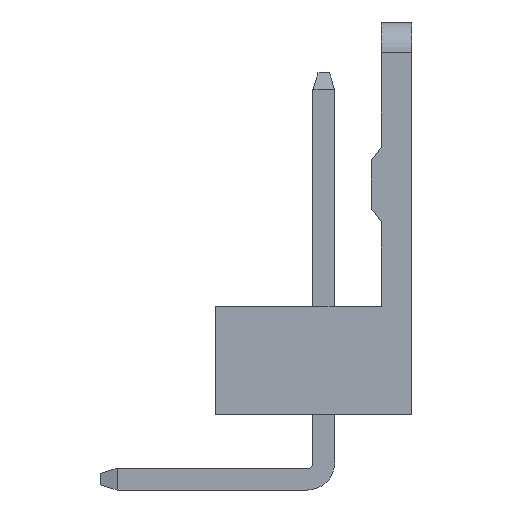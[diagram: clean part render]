
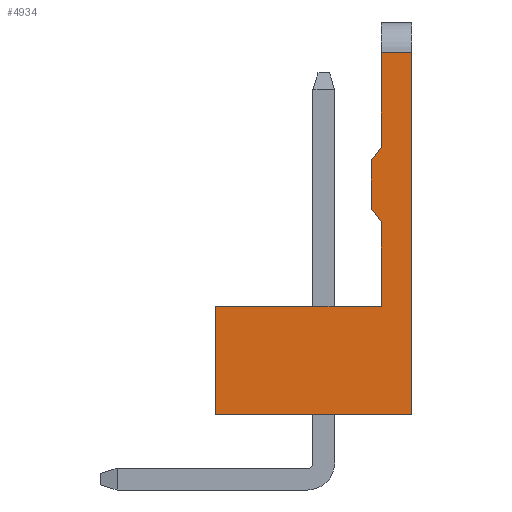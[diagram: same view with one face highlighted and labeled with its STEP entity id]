
A CAD part, left-side view. The second image highlights one B-rep face of the part: STEP entity #4934.
In plain terms, the highlighted planar face has unit normal (-1, 0, 0).
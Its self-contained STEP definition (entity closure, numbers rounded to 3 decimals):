
#61=CARTESIAN_POINT('Vertex',(-22.86,0.9,3.2)) ;
#66=CARTESIAN_POINT('Line Origine',(-22.86,0.9,4.45)) ;
#70=CARTESIAN_POINT('Vertex',(-22.86,0.9,5.7)) ;
#97=CARTESIAN_POINT('Line Origine',(-22.86,1.05,5.9)) ;
#101=CARTESIAN_POINT('Vertex',(-22.86,1.2,6.1)) ;
#128=CARTESIAN_POINT('Line Origine',(-22.86,1.2,6.8)) ;
#132=CARTESIAN_POINT('Vertex',(-22.86,1.2,7.5)) ;
#159=CARTESIAN_POINT('Line Origine',(-22.86,1.05,7.7)) ;
#163=CARTESIAN_POINT('Vertex',(-22.86,0.9,7.9)) ;
#4041=CARTESIAN_POINT('Vertex',(-22.86,0.,0.)) ;
#4046=CARTESIAN_POINT('Line Origine',(-22.86,2.9,0.)) ;
#4050=CARTESIAN_POINT('Vertex',(-22.86,5.8,0.)) ;
#4353=CARTESIAN_POINT('Vertex',(-22.86,5.8,3.2)) ;
#4356=CARTESIAN_POINT('Line Origine',(-22.86,3.35,3.2)) ;
#4595=CARTESIAN_POINT('Line Origine',(-22.86,5.8,1.6)) ;
#4898=CARTESIAN_POINT('Axis2P3D Location',(-22.86,0.,0.)) ;
#4903=CARTESIAN_POINT('Line Origine',(-22.86,0.45,10.7)) ;
#4907=CARTESIAN_POINT('Vertex',(-22.86,0.9,10.7)) ;
#4909=CARTESIAN_POINT('Vertex',(-22.86,0.,10.7)) ;
#4912=CARTESIAN_POINT('Line Origine',(-22.86,0.9,9.3)) ;
#4917=CARTESIAN_POINT('Line Origine',(-22.86,0.,5.35)) ;
#67=DIRECTION('Vector Direction',(0.,0.,1.)) ;
#98=DIRECTION('Vector Direction',(0.,0.6,0.8)) ;
#129=DIRECTION('Vector Direction',(0.,0.,1.)) ;
#160=DIRECTION('Vector Direction',(0.,-0.6,0.8)) ;
#4047=DIRECTION('Vector Direction',(0.,1.,0.)) ;
#4357=DIRECTION('Vector Direction',(0.,-1.,0.)) ;
#4596=DIRECTION('Vector Direction',(0.,0.,1.)) ;
#4899=DIRECTION('Axis2P3D Direction',(1.,0.,0.)) ;
#4900=DIRECTION('Axis2P3D XDirection',(0.,1.,0.)) ;
#4904=DIRECTION('Vector Direction',(0.,-1.,0.)) ;
#4913=DIRECTION('Vector Direction',(0.,0.,1.)) ;
#4918=DIRECTION('Vector Direction',(0.,0.,-1.)) ;
#4901=AXIS2_PLACEMENT_3D('Plane Axis2P3D',#4898,#4899,#4900) ;
#4923=ORIENTED_EDGE('',*,*,#4911,.F.) ;
#4924=ORIENTED_EDGE('',*,*,#4916,.F.) ;
#4925=ORIENTED_EDGE('',*,*,#165,.F.) ;
#4926=ORIENTED_EDGE('',*,*,#134,.F.) ;
#4927=ORIENTED_EDGE('',*,*,#103,.F.) ;
#4928=ORIENTED_EDGE('',*,*,#72,.F.) ;
#4929=ORIENTED_EDGE('',*,*,#4360,.F.) ;
#4930=ORIENTED_EDGE('',*,*,#4599,.F.) ;
#4931=ORIENTED_EDGE('',*,*,#4052,.F.) ;
#4932=ORIENTED_EDGE('',*,*,#4921,.F.) ;
#68=VECTOR('Line Direction',#67,1.) ;
#99=VECTOR('Line Direction',#98,1.) ;
#130=VECTOR('Line Direction',#129,1.) ;
#161=VECTOR('Line Direction',#160,1.) ;
#4048=VECTOR('Line Direction',#4047,1.) ;
#4358=VECTOR('Line Direction',#4357,1.) ;
#4597=VECTOR('Line Direction',#4596,1.) ;
#4905=VECTOR('Line Direction',#4904,1.) ;
#4914=VECTOR('Line Direction',#4913,1.) ;
#4919=VECTOR('Line Direction',#4918,1.) ;
#4934=ADVANCED_FACE('\X2\96F64EF651E04F554F53\X0\',(#4933),#4902,.F.) ;
#72=EDGE_CURVE('',#62,#71,#69,.T.) ;
#103=EDGE_CURVE('',#71,#102,#100,.T.) ;
#134=EDGE_CURVE('',#102,#133,#131,.T.) ;
#165=EDGE_CURVE('',#133,#164,#162,.T.) ;
#4052=EDGE_CURVE('',#4042,#4051,#4049,.T.) ;
#4360=EDGE_CURVE('',#4354,#62,#4359,.T.) ;
#4599=EDGE_CURVE('',#4051,#4354,#4598,.T.) ;
#4911=EDGE_CURVE('',#4908,#4910,#4906,.T.) ;
#4916=EDGE_CURVE('',#164,#4908,#4915,.T.) ;
#4921=EDGE_CURVE('',#4910,#4042,#4920,.T.) ;
#4922=EDGE_LOOP('',(#4923,#4924,#4925,#4926,#4927,#4928,#4929,#4930,#4931,#4932)) ;
#4933=FACE_OUTER_BOUND('',#4922,.T.) ;
#69=LINE('Line',#66,#68) ;
#100=LINE('Line',#97,#99) ;
#131=LINE('Line',#128,#130) ;
#162=LINE('Line',#159,#161) ;
#4049=LINE('Line',#4046,#4048) ;
#4359=LINE('Line',#4356,#4358) ;
#4598=LINE('Line',#4595,#4597) ;
#4906=LINE('Line',#4903,#4905) ;
#4915=LINE('Line',#4912,#4914) ;
#4920=LINE('Line',#4917,#4919) ;
#4902=PLANE('Plane',#4901) ;
#62=VERTEX_POINT('',#61) ;
#71=VERTEX_POINT('',#70) ;
#102=VERTEX_POINT('',#101) ;
#133=VERTEX_POINT('',#132) ;
#164=VERTEX_POINT('',#163) ;
#4042=VERTEX_POINT('',#4041) ;
#4051=VERTEX_POINT('',#4050) ;
#4354=VERTEX_POINT('',#4353) ;
#4908=VERTEX_POINT('',#4907) ;
#4910=VERTEX_POINT('',#4909) ;
